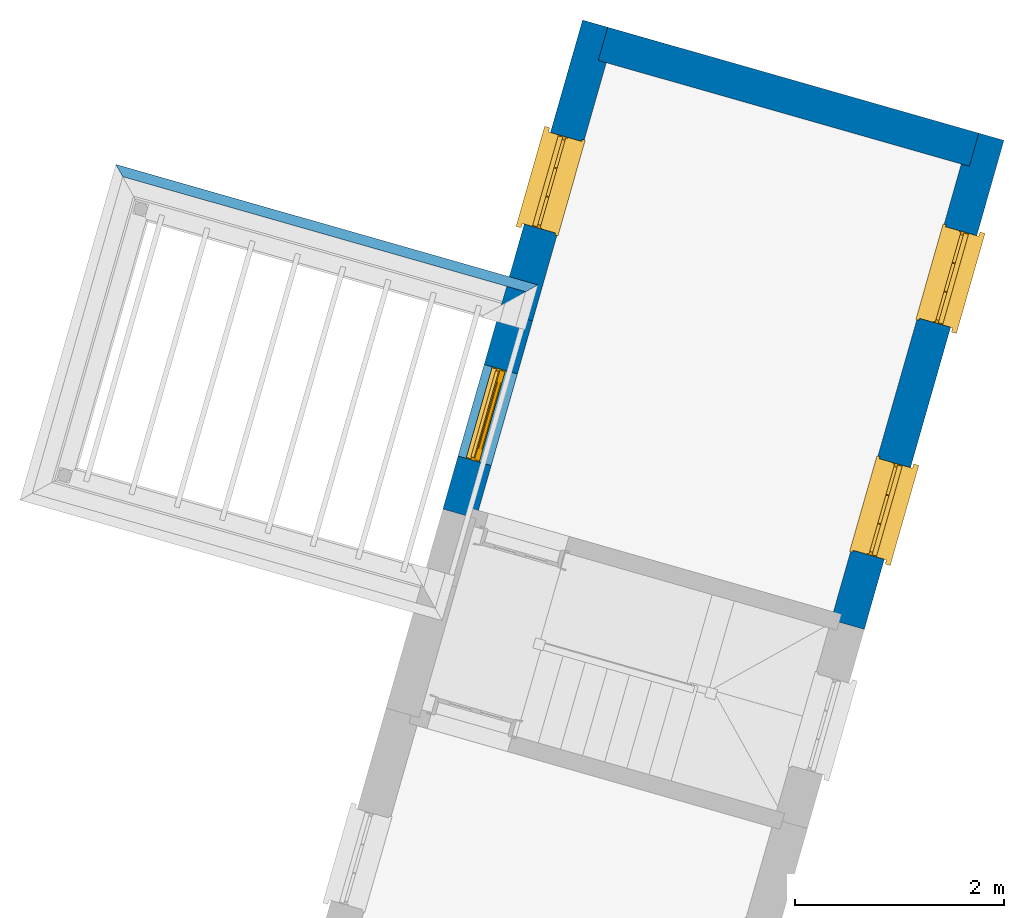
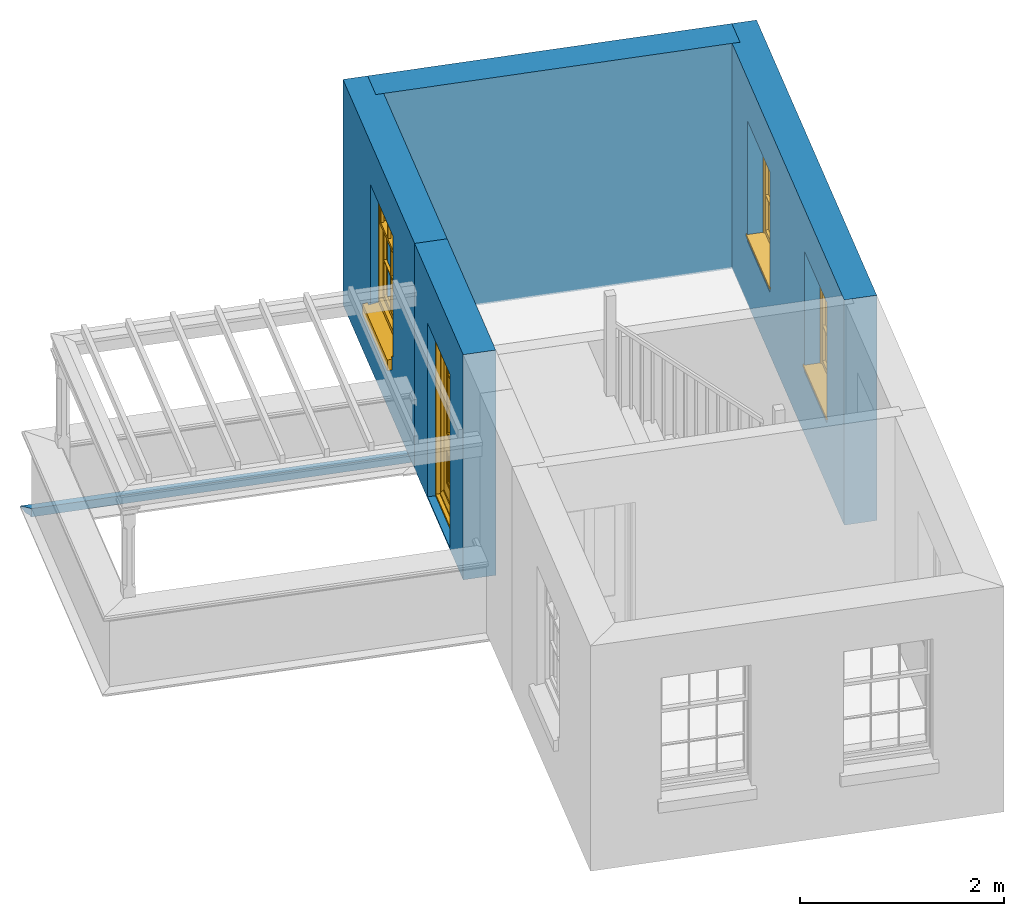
# One storey, part 4 of 6: 5 walls, 3 windows, 1 door, 4 openings.
"""IFC4 building model written with IfcOpenShell, lengths in metres."""

from ifc_helpers import new_model, si_unit, frame, origin, origin_with_axes, place, context, subcontext, project, spatial, polyline, outline, extrude, clip, halfspace, faceted_brep, source, transform, mapped, material, layer, layer_set, layer_usage, material_profile, profile_set, profile_usage, type_object, type_shapes, element, fill, save


model = new_model("IFC4")

# Units and contexts
model_context = context("Model", 3, world=origin_with_axes())
body_context = subcontext(model_context, "Body", "Model", "MODEL_VIEW")
ifc_project = project(units=[si_unit("PLANEANGLEUNIT", "RADIAN"), si_unit("MASSUNIT", "GRAM", prefix="KILO"), si_unit("FORCEUNIT", "NEWTON", prefix="KILO"), si_unit("LENGTHUNIT", "METRE"), si_unit("AREAUNIT", "SQUARE_METRE"), si_unit("VOLUMEUNIT", "CUBIC_METRE")], contexts=[model_context, model_context])

# Sites, building, storey
site_1_placement = place(None, origin_with_axes())
site_1 = spatial("IfcSite", under=ifc_project, at=site_1_placement, Name="Tamar")
site_2_placement = place(site_1_placement, origin_with_axes())
site_2 = spatial("IfcSite", under=site_1, at=site_2_placement, Name="Site plot-20", CompositionType="ELEMENT")
building_placement = place(None, origin_with_axes())
building = spatial("IfcBuilding", under=site_2, at=building_placement, Name="Building plot-20", CompositionType="ELEMENT")
storey_placement = place(None, frame((0.0, 0.0, 29.15), z_axis=(0.0, 0.0, 1.0), x_axis=(1.0, 0.0, 0.0)))
storey = spatial("IfcBuildingStorey", under=building, at=storey_placement, Name="plot-20 1", CompositionType="ELEMENT", Elevation=29.15)

# Wall, opening, window
ifc_material_1 = material(Name="Masonry")
ifc_layer_1 = layer(ifc_material_1, 0.33, ventilated=False)
ifc_layer_set_1 = layer_set([ifc_layer_1], Name="exterior_0.08_0.25")
ifc_layer_usage_1 = layer_usage(ifc_layer_set_1, "AXIS2", "POSITIVE", -0.25)
wall_type_1 = type_object("IfcWallType", Name="exterior_0.08_0.25", PredefinedType="SOLIDWALL", material=ifc_layer_set_1)
wall_1_placement = place(storey_placement, frame((278.852686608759, 293.884328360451, 0.0), z_axis=(0.0, 0.0, 1.0), x_axis=(-0.274568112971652, -0.961567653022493, 0.0)))
wall_1 = element("IfcWall", 1, at=wall_1_placement, inside=storey, type_object=wall_type_1, material=ifc_layer_usage_1, Name="exterior", context=body_context, shape_type="SweptSolid", body=[
    extrude(outline(polyline([(-0.249999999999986, 0.0799999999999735), (-0.249999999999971, -0.250000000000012), (2.64537764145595, -0.249999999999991), (2.64537764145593, 0.0799999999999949), (-0.249999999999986, 0.0799999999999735)])), origin_with_axes(), (0.0, 0.0, 1.0), 2.7),
])
opening_1_placement = place(wall_1_placement, frame((0.867688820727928, 0.0, 0.75)))
opening_1 = element("IfcOpeningElement", 2, at=opening_1_placement, cuts=wall_1, Name="My Opening", ObjectType="Opening", context=body_context, shape_type="SweptSolid", body=[
    extrude(outline(polyline([(0.0, -0.27000000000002), (0.910000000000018, -0.269999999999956), (0.91000000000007, 1.10000000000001), (5.10702591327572e-14, 1.09999999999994), (0.0, -0.27000000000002)])), origin_with_axes(), (0.0, 0.0, 1.0), 1.445),
])
window_type = type_object("IfcWindowType", Name="sash_shorter", PartitioningType="DOUBLE_PANEL_HORIZONTAL", PredefinedType="NOTDEFINED")
shared_shape_1 = source(origin(), body_context, "Body", "Brep", [
    faceted_brep([(0.876875, 0.145, 0.999097), (0.876875, 0.145, 1.411875), (0.9, 0.145, 1.435), (0.033125, 0.145, 1.411875), (0.033125, 0.145, 0.999097), (0.01, 0.145, 1.435), (0.033125, 0.115, 1.411875), (0.01, 0.115, 1.435), (0.033125, 0.115, 0.999097), (0.876875, 0.115, 1.411875), (0.876875, 0.115, 0.999097), (0.9, 0.115, 1.435), (0.033125, 0.145, 0.960972), (0.01, 0.145, 0.960972), (0.033125, 0.145, 0.548195), (0.876875, 0.145, 0.960972), (0.876875, 0.145, 0.548195), (0.9, 0.145, 0.960972), (0.876875, 0.145, 0.538195), (0.876875, 0.145, 0.125417), (0.9, 0.145, 0.077167), (0.033125, 0.145, 0.125417), (0.033125, 0.145, 0.538195), (0.01, 0.145, 0.077167), (0.9, 0.115, 0.960972), (0.01, 0.115, 0.960972), (-0.0425, 0.0, 0.01), (-0.0425, -0.05, 0.001667), (0.0, 0.0, 0.01), (0.9525, 0.0, 0.01), (0.91, 0.0, 0.01), (0.9525, -0.05, 0.001667), (-0.02, 0.33, 0.077167), (0.0, 0.33, 0.077167), (-0.02, 0.36, 0.077167), (0.0, 0.19, 0.077167), (0.01, 0.19, 0.077167), (0.91, 0.19, 0.077167), (0.91, 0.33, 0.077167), (0.9, 0.19, 0.077167), (0.93, 0.33, 0.077167), (0.93, 0.36, 0.077167), (0.01, 0.145, 0.999097), (0.01, 0.175, 0.999097), (0.9, 0.145, 0.999097), (0.9, 0.175, 0.999097), (0.876875, 0.175, 0.125417), (0.876875, 0.175, 0.538195), (0.9, 0.175, 0.077167), (0.876875, 0.175, 0.548195), (0.876875, 0.175, 0.960972), (0.033125, 0.175, 0.125417), (0.01, 0.175, 0.077167), (0.033125, 0.175, 0.538195), (0.033125, 0.175, 0.960972), (0.033125, 0.175, 0.548195), (-0.02, 0.33, 0.052167), (-0.02, 0.36, 0.052167), (0.93, 0.36, 0.052167), (0.93, 0.33, 0.052167), (0.91, 0.33, 0.052167), (0.0, 0.33, 0.052167), (0.91, 0.1, 0.026667), (0.0, 0.1, 0.026667), (-0.0425, -0.05, -0.123333), (0.9525, -0.05, -0.123333), (-0.0425, 0.0, -0.123333), (0.9525, 0.0, -0.123333), (0.01, 0.19, 1.435), (0.9, 0.19, 1.435), (0.0, 0.19, 1.445), (0.91, 0.19, 1.445), (0.01, 0.1, 0.077167), (0.9, 0.1, 0.077167), (0.592292, 0.145, 0.125417), (0.592292, 0.175, 0.125417), (0.317708, 0.175, 0.125417), (0.317708, 0.145, 0.125417), (0.592292, 0.145, 0.548195), (0.317708, 0.145, 0.548195), (0.317708, 0.145, 0.538195), (0.592292, 0.145, 0.538195), (0.592292, 0.175, 0.548195), (0.317708, 0.175, 0.548195), (0.602292, 0.175, 0.548195), (0.602292, 0.145, 0.548195), (0.317708, 0.175, 0.538195), (0.307708, 0.175, 0.125417), (0.307708, 0.175, 0.538195), (0.602292, 0.175, 0.538195), (0.602292, 0.175, 0.125417), (0.592292, 0.175, 0.538195), (0.307708, 0.175, 0.548195), (0.317708, 0.175, 0.960972), (0.307708, 0.175, 0.960972), (0.602292, 0.175, 0.960972), (0.592292, 0.175, 0.960972), (0.307708, 0.145, 0.538195), (0.307708, 0.145, 0.125417), (0.307708, 0.145, 0.548195), (0.307708, 0.145, 0.960972), (0.592292, 0.145, 0.960972), (0.317708, 0.145, 0.960972), (0.602292, 0.145, 0.960972), (0.602292, 0.145, 0.538195), (0.602292, 0.145, 0.125417), (0.317708, 0.115, 1.411875), (0.307708, 0.115, 1.411875), (0.307708, 0.115, 0.999097), (0.317708, 0.115, 0.999097), (0.602292, 0.115, 1.411875), (0.592292, 0.115, 1.411875), (0.592292, 0.115, 0.999097), (0.602292, 0.115, 0.999097), (0.317708, 0.145, 0.999097), (0.307708, 0.145, 0.999097), (0.307708, 0.145, 1.411875), (0.317708, 0.145, 1.411875), (0.602292, 0.145, 0.999097), (0.592292, 0.145, 0.999097), (0.592292, 0.145, 1.411875), (0.602292, 0.145, 1.411875), (0.91, 0.1, 1.445), (0.9, 0.1, 1.435), (0.01, 0.1, 1.435), (0.0, 0.1, 1.445), (0.91, 0.0, 0.0), (0.0, 0.0, 0.0), (0.91, 0.33, 0.0), (0.0, 0.33, 0.0)], [[[0, 1, 2]], [[3, 4, 5]], [[6, 7, 8]], [[9, 10, 11]], [[12, 13, 14]], [[15, 16, 17]], [[18, 19, 20]], [[21, 22, 23]], [[24, 15, 17]], [[13, 12, 25]], [[26, 27, 28]], [[29, 30, 31]], [[32, 33, 34]], [[35, 36, 33]], [[37, 38, 39]], [[40, 41, 38]], [[42, 4, 43]], [[44, 45, 0]], [[46, 47, 48]], [[49, 50, 45]], [[51, 52, 53]], [[54, 55, 43]], [[38, 33, 36, 39]], [[41, 34, 33, 38]], [[56, 32, 34, 57]], [[57, 34, 41, 58]], [[58, 41, 40, 59]], [[57, 58, 60, 61]], [[52, 48, 39, 36]], [[62, 63, 28, 30]], [[27, 31, 30, 28]], [[27, 64, 65, 31]], [[66, 67, 65, 64]], [[2, 5, 68, 69]], [[68, 70, 71, 69]], [[20, 23, 72, 73]], [[73, 72, 63, 62]], [[74, 75, 76, 77]], [[78, 79, 80, 81]], [[78, 82, 83, 79]], [[16, 49, 84, 85]], [[86, 76, 87, 88]], [[89, 90, 75, 91]], [[92, 88, 53, 55]], [[82, 91, 86, 83]], [[93, 83, 92, 94]], [[95, 84, 82, 96]], [[89, 84, 49, 47]], [[97, 88, 87, 98]], [[22, 53, 88, 97]], [[81, 91, 75, 74]], [[80, 86, 91, 81]], [[77, 76, 86, 80]], [[99, 92, 55, 14]], [[100, 94, 92, 99]], [[101, 96, 82, 78]], [[79, 83, 93, 102]], [[85, 84, 95, 103]], [[104, 89, 47, 18]], [[105, 90, 89, 104]], [[104, 18, 16, 85]], [[80, 97, 98, 77]], [[104, 81, 74, 105]], [[103, 101, 78, 85]], [[99, 14, 22, 97]], [[102, 100, 99, 79]], [[106, 107, 108, 109]], [[110, 111, 112, 113]], [[114, 115, 116, 117]], [[118, 119, 120, 121]], [[107, 116, 115, 108]], [[111, 120, 119, 112]], [[109, 114, 117, 106]], [[113, 118, 121, 110]], [[85, 78, 81, 104]], [[84, 89, 91, 82]], [[83, 86, 88, 92]], [[79, 99, 97, 80]], [[109, 112, 119, 114]], [[102, 93, 96, 101]], [[106, 117, 120, 111]], [[98, 87, 51, 21]], [[6, 3, 116, 107]], [[110, 121, 1, 9]], [[19, 46, 90, 105]], [[26, 66, 64, 27]], [[29, 31, 65, 67]], [[25, 24, 112, 109]], [[11, 7, 106, 111]], [[75, 48, 52, 76]], [[43, 45, 96, 93]], [[45, 43, 114, 119]], [[5, 2, 120, 117]], [[24, 25, 102, 101]], [[42, 5, 4]], [[2, 44, 0]], [[49, 45, 48, 47]], [[52, 43, 55, 53]], [[14, 13, 23, 22]], [[20, 17, 16, 18]], [[24, 11, 10]], [[25, 8, 7]], [[8, 4, 3, 6]], [[9, 1, 0, 10]], [[15, 50, 49, 16]], [[18, 47, 46, 19]], [[21, 51, 53, 22]], [[14, 55, 54, 12]], [[44, 2, 69, 45]], [[68, 5, 42, 43]], [[36, 35, 70, 68]], [[39, 69, 71, 37]], [[62, 122, 123, 73]], [[63, 72, 124, 125]], [[8, 108, 115, 4]], [[113, 10, 0, 118]], [[94, 100, 12, 54]], [[17, 20, 73, 24]], [[72, 23, 13, 25]], [[52, 36, 68, 43]], [[69, 39, 48, 45]], [[11, 24, 73, 123]], [[7, 124, 72, 25]], [[23, 77, 98]], [[98, 21, 23]], [[105, 74, 20]], [[20, 19, 105]], [[20, 74, 77, 23]], [[113, 112, 24]], [[24, 10, 113]], [[25, 109, 108]], [[108, 8, 25]], [[110, 9, 11]], [[11, 111, 110]], [[7, 6, 107]], [[107, 106, 7]], [[5, 117, 116]], [[116, 3, 5]], [[121, 120, 2]], [[2, 1, 121]], [[11, 123, 124, 7]], [[122, 125, 124, 123]], [[43, 93, 94]], [[94, 54, 43]], [[96, 45, 95]], [[50, 95, 45]], [[15, 103, 95, 50]], [[48, 75, 90]], [[90, 46, 48]], [[87, 76, 52]], [[52, 51, 87]], [[103, 15, 24]], [[24, 101, 103]], [[100, 102, 25]], [[25, 12, 100]], [[115, 114, 43]], [[43, 4, 115]], [[118, 0, 45]], [[45, 119, 118]], [[71, 70, 125, 122]], [[70, 35, 63, 125]], [[122, 62, 37, 71]], [[126, 67, 66, 127]], [[60, 58, 59]], [[38, 60, 59, 40]], [[61, 56, 57]], [[32, 56, 61, 33]], [[61, 60, 128, 129]], [[62, 60, 38, 37]], [[126, 128, 60, 62]], [[33, 61, 63, 35]], [[61, 129, 127, 63]], [[128, 126, 127, 129]], [[28, 127, 66, 26]], [[63, 127, 28]], [[29, 67, 126, 30]], [[30, 126, 62]]]),
])
type_shapes(window_type, [shared_shape_1])
window_1_placement = place(storey_placement, frame((278.354823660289, 293.124120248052, 0.75), z_axis=(0.0, 0.0, 1.0), x_axis=(-0.249856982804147, -0.875026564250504, 0.0)))
window_1 = element("IfcWindow", 3, at=window_1_placement, inside=storey, type_object=window_type, Name="bedroom outside window", OverallHeight=1.445, OverallWidth=0.91, context=body_context, shape_type="MappedRepresentation", body=[
    mapped(shared_shape_1, transform((0.0, 0.0, 0.0), scale=1.0)),
])
fill(opening_1, window_1)

# Wall, opening, door
wall_2_placement = place(storey_placement, frame((278.126350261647, 291.340618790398, 0.0), z_axis=(0.0, 0.0, 1.0), x_axis=(-0.274568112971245, -0.961567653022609, 0.0)))
wall_2 = element("IfcWall", 4, at=wall_2_placement, inside=storey, type_object=wall_type_1, material=ifc_layer_usage_1, Name="exterior", context=body_context, shape_type="SweptSolid", body=[
    extrude(outline(polyline([(4.01309688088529e-14, 0.079999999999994), (-8.54718648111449e-14, -0.249999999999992), (1.96337706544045, -0.250000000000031), (1.96337706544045, 0.0799999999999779), (4.01309688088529e-14, 0.079999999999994)])), origin_with_axes(), (0.0, 0.0, 1.0), 2.7),
])
opening_2_placement = place(wall_2_placement, frame((0.526688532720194, 0.0, 0.0199999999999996)))
opening_2 = element("IfcOpeningElement", 5, at=opening_2_placement, cuts=wall_2, Name="My Opening", ObjectType="Opening", context=body_context, shape_type="SweptSolid", body=[
    extrude(outline(polyline([(0.0, -0.270000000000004), (0.91000000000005, -0.27000000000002), (0.910000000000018, 1.09999999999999), (-3.2085445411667e-14, 1.10000000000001), (0.0, -0.270000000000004)])), origin_with_axes(), (0.0, 0.0, 1.0), 2.08),
])
door_type = type_object("IfcDoorType", Name="door_panelled", OperationType="SINGLE_SWING_LEFT", PredefinedType="NOTDEFINED")
shared_shape_2 = source(origin(), body_context, "Body", "Brep", [
    faceted_brep([(0.545, 0.195, 0.265), (0.745, 0.195, 0.265), (0.745, 0.2, 0.265), (0.545, 0.2, 0.265), (0.745, 0.2, 0.58), (0.545, 0.2, 0.58), (0.545, 0.195, 0.58), (0.515, 0.19, 0.235), (0.775, 0.19, 0.235), (0.745, 0.195, 0.58), (0.515, 0.19, 0.61), (0.515, 0.185, 0.235), (0.775, 0.185, 0.235), (0.775, 0.19, 0.61), (0.515, 0.185, 0.61), (0.785, 0.185, 0.225), (0.505, 0.185, 0.225), (0.775, 0.185, 0.61), (0.505, 0.185, 0.62), (0.785, 0.185, 0.62), (0.505, 0.18, 0.225), (0.785, 0.18, 0.225), (0.505, 0.18, 0.62), (0.785, 0.18, 0.62), (0.883, 0.18, 0.075), (0.898, 0.18, 0.075), (0.405, 0.18, 0.62), (0.405, 0.18, 0.225), (0.027, 0.18, 0.075), (0.785, 0.18, 0.82), (0.125, 0.18, 0.82), (0.405, 0.185, 0.62), (0.405, 0.185, 0.225), (0.898, 0.18, 2.068), (0.027, 0.17, 0.075), (0.883, 0.17, 0.075), (0.125, 0.18, 0.225), (0.012, 0.18, 0.075), (0.785, 0.19, 0.82), (0.125, 0.19, 0.82), (0.125, 0.18, 0.62), (0.125, 0.185, 0.62), (0.395, 0.185, 0.61), (0.395, 0.185, 0.235), (0.125, 0.185, 0.225), (0.785, 0.18, 1.895), (0.027, 0.14, 0.045), (0.883, 0.14, 0.045), (0.558333, 0.19, 0.83), (0.351667, 0.19, 0.83), (0.125, 0.18, 1.895), (0.125, 0.19, 1.895), (0.785, 0.19, 1.895), (0.012, 0.18, 2.068), (0.135, 0.185, 0.61), (0.395, 0.19, 0.61), (0.395, 0.19, 0.235), (0.135, 0.185, 0.235), (0.027, 0.14, 0.027), (0.883, 0.14, 0.027), (0.568333, 0.19, 0.83), (0.558333, 0.22, 0.83), (0.351667, 0.22, 0.83), (0.341667, 0.19, 0.83), (0.135, 0.19, 1.185), (0.135, 0.19, 1.53), (0.775, 0.19, 1.53), (0.775, 0.19, 1.185), (0.135, 0.19, 0.61), (0.365, 0.195, 0.58), (0.365, 0.195, 0.265), (0.135, 0.19, 0.235), (0.568333, 0.19, 1.175), (0.558333, 0.19, 1.175), (0.775, 0.19, 0.83), (0.558333, 0.22, 1.175), (0.785, 0.22, 0.82), (0.125, 0.22, 0.82), (0.351667, 0.22, 1.175), (0.351667, 0.19, 1.175), (0.341667, 0.19, 1.175), (0.135, 0.19, 0.83), (0.135, 0.19, 1.175), (0.135, 0.22, 1.185), (0.135, 0.22, 1.53), (0.135, 0.19, 1.54), (0.351667, 0.19, 1.885), (0.558333, 0.19, 1.885), (0.775, 0.22, 1.53), (0.775, 0.22, 1.185), (0.775, 0.19, 1.175), (0.775, 0.19, 1.54), (0.165, 0.195, 0.58), (0.365, 0.2, 0.58), (0.365, 0.2, 0.265), (0.165, 0.195, 0.265), (0.568333, 0.22, 0.83), (0.568333, 0.22, 1.175), (0.568333, 0.19, 1.185), (0.558333, 0.19, 1.185), (0.775, 0.22, 0.83), (0.785, 0.23, 0.82), (0.125, 0.23, 0.82), (0.341667, 0.22, 0.83), (0.341667, 0.22, 1.175), (0.351667, 0.19, 1.185), (0.341667, 0.19, 1.185), (0.135, 0.22, 0.83), (0.341667, 0.22, 1.185), (0.125, 0.22, 1.895), (0.341667, 0.22, 1.53), (0.341667, 0.19, 1.53), (0.135, 0.19, 1.885), (0.341667, 0.19, 1.54), (0.341667, 0.19, 1.885), (0.558333, 0.22, 1.885), (0.351667, 0.22, 1.885), (0.568333, 0.19, 1.885), (0.785, 0.22, 1.895), (0.568333, 0.22, 1.185), (0.568333, 0.19, 1.53), (0.568333, 0.22, 1.53), (0.568333, 0.19, 1.54), (0.775, 0.19, 1.885), (0.165, 0.2, 0.58), (0.165, 0.2, 0.265), (0.775, 0.22, 1.175), (0.558333, 0.19, 1.53), (0.351667, 0.22, 1.185), (0.558333, 0.22, 1.185), (0.505, 0.23, 0.62), (0.405, 0.23, 0.62), (0.125, 0.23, 1.895), (0.785, 0.23, 1.895), (0.351667, 0.19, 1.53), (0.135, 0.22, 1.175), (0.135, 0.22, 1.54), (0.341667, 0.22, 1.54), (0.135, 0.22, 1.885), (0.351667, 0.19, 1.54), (0.558333, 0.22, 1.54), (0.558333, 0.19, 1.54), (0.351667, 0.22, 1.54), (0.775, 0.22, 1.54), (0.568333, 0.22, 1.54), (0.775, 0.22, 1.885), (0.558333, 0.22, 1.53), (0.405, 0.23, 0.225), (0.505, 0.23, 0.225), (0.125, 0.23, 0.62), (0.785, 0.23, 0.62), (0.012, 0.23, 2.068), (0.898, 0.23, 2.068), (0.351667, 0.22, 1.53), (0.341667, 0.22, 1.885), (0.568333, 0.22, 1.885), (0.405, 0.225, 0.225), (0.405, 0.225, 0.62), (0.505, 0.225, 0.62), (0.505, 0.225, 0.225), (0.898, 0.23, 0.027), (0.012, 0.23, 0.027), (0.125, 0.225, 0.62), (0.785, 0.225, 0.62), (0.395, 0.225, 0.235), (0.395, 0.225, 0.61), (0.125, 0.23, 0.225), (0.125, 0.225, 0.225), (0.515, 0.225, 0.61), (0.515, 0.225, 0.235), (0.785, 0.23, 0.225), (0.785, 0.225, 0.225), (0.135, 0.225, 0.61), (0.775, 0.225, 0.61), (0.135, 0.225, 0.235), (0.395, 0.22, 0.235), (0.395, 0.22, 0.61), (0.515, 0.22, 0.61), (0.515, 0.22, 0.235), (0.775, 0.225, 0.235), (0.135, 0.22, 0.61), (0.775, 0.22, 0.61), (0.135, 0.22, 0.235), (0.365, 0.215, 0.265), (0.365, 0.215, 0.58), (0.545, 0.215, 0.58), (0.545, 0.215, 0.265), (0.775, 0.22, 0.235), (0.165, 0.215, 0.58), (0.745, 0.215, 0.58), (0.165, 0.215, 0.265), (0.365, 0.21, 0.58), (0.365, 0.21, 0.265), (0.545, 0.21, 0.58), (0.545, 0.21, 0.265), (0.745, 0.215, 0.265), (0.165, 0.21, 0.58), (0.745, 0.21, 0.58), (0.165, 0.21, 0.265), (0.745, 0.21, 0.265), (0.885, 0.178, 0.025), (0.025, 0.178, 0.025), (0.025, 0.15, 0.025), (0.885, 0.15, 0.025), (0.9, 0.23, 0.025), (0.01, 0.23, 0.025), (0.9, 0.178, 0.025), (0.91, 0.23, 0.0), (0.0, 0.23, 0.0), (0.01, 0.178, 0.025), (0.9, 0.178, 2.07), (0.9, 0.23, 2.07), (0.885, 0.178, 2.055), (0.91, 0.23, 2.08), (0.01, 0.23, 2.07), (0.0, 0.23, 2.08), (0.01, 0.178, 2.07), (0.025, 0.178, 2.055), (0.0, 0.1, 2.08), (0.91, 0.1, 2.08), (0.01, 0.1, 2.07), (0.9, 0.1, 2.07), (0.01, 0.15, 2.07), (0.9, 0.15, 2.07), (0.0, 0.1, 0.0), (0.91, 0.1, 0.0), (0.01, 0.1, 0.025), (0.9, 0.1, 0.025), (0.01, 0.15, 0.025), (0.025, 0.15, 2.055), (0.9, 0.15, 0.025), (0.885, 0.15, 2.055), (0.898, 0.18, 0.027), (0.012, 0.18, 0.027), (0.883, 0.18, 0.027), (0.027, 0.18, 0.027)], [[[0, 1, 2, 3]], [[2, 4, 5, 3]], [[0, 3, 5, 6]], [[1, 0, 7, 8]], [[9, 4, 2, 1]], [[9, 6, 5, 4]], [[0, 6, 10, 7]], [[8, 7, 11, 12]], [[8, 13, 9, 1]], [[13, 10, 6, 9]], [[7, 10, 14, 11]], [[15, 12, 11, 16]], [[12, 17, 13, 8]], [[17, 14, 10, 13]], [[18, 16, 11, 14]], [[15, 19, 17, 12]], [[15, 16, 20, 21]], [[14, 17, 19, 18]], [[16, 18, 22, 20]], [[21, 23, 19, 15]], [[24, 25, 21, 20]], [[23, 22, 18, 19]], [[20, 22, 26, 27]], [[23, 21, 25]], [[28, 24, 20, 27]], [[22, 23, 29]], [[29, 30, 26, 22]], [[27, 26, 31, 32]], [[23, 25, 33, 29]], [[34, 35, 24, 28]], [[28, 27, 36, 37]], [[38, 39, 30, 29]], [[26, 30, 40]], [[26, 40, 41, 31]], [[42, 43, 32, 31]], [[32, 44, 36, 27]], [[33, 45, 29]], [[46, 47, 35, 34]], [[36, 40, 37]], [[39, 38, 48, 49]], [[50, 30, 39, 51]], [[29, 45, 52, 38]], [[53, 37, 40, 30]], [[44, 41, 40, 36]], [[31, 41, 54, 42]], [[43, 42, 55, 56]], [[57, 44, 32, 43]], [[50, 45, 33, 53]], [[47, 46, 58, 59]], [[60, 48, 38]], [[49, 48, 61, 62]], [[49, 63, 39]], [[50, 53, 30]], [[51, 39, 64, 65]], [[45, 50, 51, 52]], [[66, 67, 38, 52]], [[57, 54, 41, 44]], [[42, 54, 68, 55]], [[56, 55, 69, 70]], [[56, 71, 57, 43]], [[60, 72, 73, 48]], [[60, 38, 74]], [[48, 73, 75, 61]], [[76, 77, 62, 61]], [[62, 78, 79, 49]], [[49, 79, 80, 63]], [[63, 81, 39]], [[82, 64, 39]], [[65, 64, 83, 84]], [[85, 51, 65]], [[52, 51, 86, 87]], [[88, 89, 67, 66]], [[90, 38, 67]], [[91, 66, 52]], [[71, 68, 54, 57]], [[55, 68, 92, 69]], [[69, 93, 94, 70]], [[70, 95, 71, 56]], [[96, 97, 72, 60]], [[73, 72, 98, 99]], [[74, 38, 90]], [[100, 96, 60, 74]], [[75, 73, 79, 78]], [[61, 75, 97, 96]], [[101, 102, 77, 76]], [[77, 103, 62]], [[96, 76, 61]], [[103, 104, 78, 62]], [[80, 79, 105, 106]], [[63, 80, 104, 103]], [[81, 63, 103, 107]], [[81, 82, 39]], [[106, 64, 82, 80]], [[106, 108, 83, 64]], [[84, 83, 77, 109]], [[110, 111, 65, 84]], [[112, 51, 85]], [[113, 85, 65, 111]], [[114, 86, 51]], [[115, 87, 86, 116]], [[117, 52, 87]], [[118, 76, 89, 88]], [[119, 98, 67, 89]], [[120, 121, 88, 66]], [[67, 98, 72, 90]], [[91, 122, 120, 66]], [[91, 52, 123]], [[95, 92, 68, 71]], [[69, 92, 124, 93]], [[94, 93, 124, 125]], [[94, 125, 95, 70]], [[72, 97, 126, 90]], [[127, 99, 98, 120]], [[99, 105, 79, 73]], [[74, 90, 126, 100]], [[96, 100, 76]], [[128, 129, 75, 78]], [[97, 75, 129, 119]], [[130, 131, 102, 101]], [[109, 77, 102, 132]], [[133, 101, 76, 118]], [[77, 107, 103]], [[78, 104, 108, 128]], [[111, 106, 105, 134]], [[104, 80, 82, 135]], [[107, 135, 82, 81]], [[110, 108, 106, 111]], [[104, 135, 83, 108]], [[83, 135, 77]], [[136, 84, 109]], [[110, 84, 136, 137]], [[114, 51, 112]], [[85, 136, 138, 112]], [[113, 137, 136, 85]], [[111, 134, 139, 113]], [[86, 114, 113, 139]], [[140, 141, 87, 115]], [[139, 142, 116, 86]], [[109, 118, 115, 116]], [[117, 123, 52]], [[117, 87, 141, 122]], [[126, 89, 76]], [[143, 118, 88]], [[120, 98, 119, 121]], [[119, 89, 126, 97]], [[144, 143, 88, 121]], [[144, 122, 91, 143]], [[127, 120, 122, 141]], [[143, 91, 123, 145]], [[124, 92, 95, 125]], [[146, 129, 99, 127]], [[99, 129, 128, 105]], [[100, 126, 76]], [[121, 119, 129, 146]], [[147, 131, 130, 148]], [[131, 149, 102]], [[130, 101, 150]], [[102, 151, 132]], [[118, 109, 132, 133]], [[101, 133, 152]], [[107, 77, 135]], [[153, 128, 108, 110]], [[134, 105, 128, 153]], [[109, 138, 136]], [[153, 110, 137, 142]], [[154, 114, 112, 138]], [[137, 113, 114, 154]], [[141, 139, 134, 127]], [[141, 140, 142, 139]], [[144, 140, 115, 155]], [[142, 137, 154, 116]], [[155, 115, 118]], [[116, 154, 109]], [[117, 155, 145, 123]], [[122, 144, 155, 117]], [[143, 145, 118]], [[121, 146, 140, 144]], [[146, 127, 134, 153]], [[156, 157, 131, 147]], [[148, 130, 158, 159]], [[148, 160, 161, 147]], [[157, 162, 149, 131]], [[161, 151, 102, 149]], [[101, 152, 160, 150]], [[163, 158, 130, 150]], [[151, 152, 133, 132]], [[154, 138, 109]], [[142, 140, 146, 153]], [[145, 155, 118]], [[157, 156, 164, 165]], [[147, 166, 167, 156]], [[168, 169, 159, 158]], [[170, 148, 159, 171]], [[148, 170, 160]], [[166, 147, 161]], [[172, 162, 157, 165]], [[166, 149, 162, 167]], [[166, 161, 149]], [[150, 160, 170]], [[163, 173, 168, 158]], [[171, 163, 150, 170]], [[174, 164, 156, 167]], [[175, 176, 165, 164]], [[169, 168, 177, 178]], [[171, 159, 169, 179]], [[167, 162, 172, 174]], [[176, 180, 172, 165]], [[179, 173, 163, 171]], [[181, 177, 168, 173]], [[164, 174, 182, 175]], [[183, 184, 176, 175]], [[178, 177, 185, 186]], [[179, 169, 178, 187]], [[174, 172, 180, 182]], [[184, 188, 180, 176]], [[187, 181, 173, 179]], [[189, 185, 177, 181]], [[175, 182, 190, 183]], [[191, 184, 183, 192]], [[185, 193, 194, 186]], [[187, 178, 186, 195]], [[182, 180, 188, 190]], [[191, 196, 188, 184]], [[195, 189, 181, 187]], [[197, 193, 185, 189]], [[183, 190, 198, 192]], [[198, 196, 191, 192]], [[194, 193, 197, 199]], [[195, 186, 194, 199]], [[188, 196, 198, 190]], [[197, 189, 195, 199]], [[200, 201, 202, 203]], [[201, 200, 204, 205]], [[206, 204, 200]], [[204, 207, 208, 205]], [[209, 201, 205]], [[210, 211, 204, 206]], [[206, 200, 212, 210]], [[211, 213, 207, 204]], [[214, 205, 208, 215]], [[216, 217, 201, 209]], [[205, 214, 216, 209]], [[216, 214, 211, 210]], [[210, 212, 217, 216]], [[214, 215, 213, 211]], [[218, 219, 213, 215]], [[219, 218, 220, 221]], [[221, 220, 222, 223]], [[215, 208, 224, 218]], [[225, 224, 208, 207]], [[224, 226, 220, 218]], [[224, 225, 227, 226]], [[219, 225, 207, 213]], [[228, 222, 220, 226]], [[219, 221, 227, 225]], [[226, 227, 203, 202]], [[202, 229, 222, 228]], [[228, 226, 202]], [[227, 221, 223, 230]], [[230, 203, 227]], [[217, 229, 202, 201]], [[231, 223, 222, 229]], [[230, 223, 231, 203]], [[231, 229, 217, 212]], [[212, 200, 203, 231]], [[33, 152, 151, 53]], [[25, 160, 152, 33]], [[161, 37, 53, 151]], [[232, 160, 25]], [[161, 233, 37]], [[160, 232, 234]], [[24, 234, 232, 25]], [[233, 161, 235]], [[37, 233, 235, 28]], [[161, 160, 234, 235]], [[35, 47, 234, 24]], [[28, 235, 46, 34]], [[58, 235, 234, 59]], [[59, 234, 47]], [[58, 46, 235]]]),
])
type_shapes(door_type, [shared_shape_2])
door_placement = place(storey_placement, frame((277.722115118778, 290.908305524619, 0.0199999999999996), z_axis=(0.0, 0.0, 1.0), x_axis=(-0.249856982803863, -0.875026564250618, 0.0)))
door = element("IfcDoor", 6, at=door_placement, inside=storey, type_object=door_type, Name="bedroom outside door", OverallHeight=2.08, OverallWidth=0.91, context=body_context, shape_type="MappedRepresentation", body=[
    mapped(shared_shape_2, transform((0.0, 0.0, 0.0), scale=1.0)),
])
fill(opening_2, door)

# Wall, openings, windows
wall_3_placement = place(storey_placement, frame((281.132347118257, 288.440429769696, 0.0), z_axis=(0.0, 0.0, 1.0), x_axis=(0.274568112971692, 0.961567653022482, 0.0)))
wall_3 = element("IfcWall", 7, at=wall_3_placement, inside=storey, type_object=wall_type_1, material=ifc_layer_usage_1, Name="exterior", context=body_context, shape_type="SweptSolid", body=[
    extrude(outline(polyline([(-5.16870854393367e-14, 0.0799999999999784), (1.55668576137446e-13, -0.250000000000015), (4.85875470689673, -0.250000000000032), (4.85875470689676, 0.0799999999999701), (-5.16870854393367e-14, 0.0799999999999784)])), origin_with_axes(), (0.0, 0.0, 1.0), 2.7),
])
opening_3_placement = place(wall_3_placement, frame((0.697188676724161, 0.0, 0.75)))
opening_3 = element("IfcOpeningElement", 8, at=opening_3_placement, cuts=wall_3, Name="My Opening", ObjectType="Opening", context=body_context, shape_type="SweptSolid", body=[
    extrude(outline(polyline([(0.0, -0.269999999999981), (0.909999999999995, -0.270000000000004), (0.90999999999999, 1.09999999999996), (-4.88498130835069e-15, 1.09999999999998), (0.0, -0.269999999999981)])), origin_with_axes(), (0.0, 0.0, 1.0), 1.445),
])
opening_4_placement = place(wall_3_placement, frame((3.00156603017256, 0.0, 0.75)))
opening_4 = element("IfcOpeningElement", 9, at=opening_4_placement, cuts=wall_3, Name="My Opening", ObjectType="Opening", context=body_context, shape_type="SweptSolid", body=[
    extrude(outline(polyline([(0.0, -0.269999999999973), (0.909999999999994, -0.269999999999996), (0.90999999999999, 1.09999999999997), (-4.88498130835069e-15, 1.09999999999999), (0.0, -0.269999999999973)])), origin_with_axes(), (0.0, 0.0, 1.0), 1.445),
])
window_2_placement = place(storey_placement, frame((281.583396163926, 289.036690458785, 0.75), z_axis=(0.0, 0.0, 1.0), x_axis=(0.24985698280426, 0.875026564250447, 0.0)))
window_2 = element("IfcWindow", 10, at=window_2_placement, inside=storey, type_object=window_type, Name="bedroom outside window", OverallHeight=1.445, OverallWidth=0.91, context=body_context, shape_type="MappedRepresentation", body=[
    mapped(shared_shape_1, transform((0.0, 0.0, 0.0), scale=1.0)),
])
fill(opening_3, window_2)
window_3_placement = place(storey_placement, frame((282.216104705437, 291.252505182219, 0.75), z_axis=(0.0, 0.0, 1.0), x_axis=(0.24985698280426, 0.875026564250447, 0.0)))
window_3 = element("IfcWindow", 11, at=window_3_placement, inside=storey, type_object=window_type, Name="bedroom outside window", OverallHeight=1.445, OverallWidth=0.91, context=body_context, shape_type="MappedRepresentation", body=[
    mapped(shared_shape_1, transform((0.0, 0.0, 0.0), scale=1.0)),
])
fill(opening_4, window_3)

# Walls
ifc_material_2 = material(Name="Masonry")
ifc_layer_2 = layer(ifc_material_2, 0.33, ventilated=False)
ifc_layer_set_2 = layer_set([ifc_layer_2], Name="party_0.08_0.25")
ifc_layer_usage_2 = layer_usage(ifc_layer_set_2, "AXIS2", "POSITIVE", -0.25)
wall_type_2 = type_object("IfcWallType", Name="party_0.08_0.25", PredefinedType="SOLIDWALL", material=ifc_layer_set_2)
wall_4_placement = place(storey_placement, frame((282.397764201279, 292.872059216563, 0.0), z_axis=(0.0, 0.0, 1.0), x_axis=(-0.961567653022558, 0.274568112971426, 0.0)))
element("IfcWall", 12, at=wall_4_placement, inside=storey, type_object=wall_type_2, material=ifc_layer_usage_2, Name="party", context=body_context, shape_type="SweptSolid", body=[
    extrude(outline(polyline([(2.50515300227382e-14, 0.079999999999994), (1.63910976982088e-14, -0.249999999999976), (3.6867687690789, -0.249999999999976), (3.68676876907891, 0.0799999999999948), (2.50515300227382e-14, 0.079999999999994)])), origin_with_axes(), (0.0, 0.0, 1.0), 2.7),
])
ifc_material_profile = material_profile(None, outline(polyline([(0.25, -0.1), (0.265, -0.1), (0.265, -0.085), (0.278, -0.084), (0.289, -0.081), (0.301, -0.074), (0.309, -0.065), (0.315, -0.055), (0.324, -0.044), (0.334, -0.038), (0.345, -0.035), (0.345, -0.015), (0.25, 0.0), (0.25, -0.1)])))
ifc_profile_set = profile_set([ifc_material_profile])
ifc_profile_usage = profile_usage(ifc_profile_set)
wall_type_3 = type_object("IfcWallType", Name="parapet_2", PredefinedType="PARAPET", material=ifc_profile_set)
wall_5_placement = place(storey_placement, frame((273.498102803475, 292.662178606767, 0.0), z_axis=(0.961567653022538, -0.274568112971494, 0.0), x_axis=(0.274568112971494, 0.961567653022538, 0.0)))
element("IfcWall", 13, at=wall_5_placement, inside=storey, type_object=wall_type_3, material=ifc_profile_usage, Name="parapet_2", context=body_context, shape_type="Clipping", body=[
    clip(clip(extrude(outline(polyline([(0.25, -0.1), (0.265, -0.1), (0.265, -0.085), (0.278, -0.084), (0.289, -0.081), (0.301, -0.074), (0.309, -0.065), (0.315, -0.055), (0.324, -0.044), (0.334, -0.038), (0.345, -0.035), (0.345, -0.015), (0.25, 0.0), (0.25, -0.1)])), origin_with_axes(), (0.0, 0.0, 1.0), 5.50323123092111), halfspace(frame((0.0, 0.0, 4.50323123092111), z_axis=(0.707106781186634, 0.0, -0.707106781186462), x_axis=(0.0, 1.0, 0.0)), True)), halfspace(frame((0.0, 0.0, 1.0), z_axis=(-0.707106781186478, 0.0, -0.707106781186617), x_axis=(0.0, 1.0, 0.0)), False)),
])

save(model, "model.ifc")
